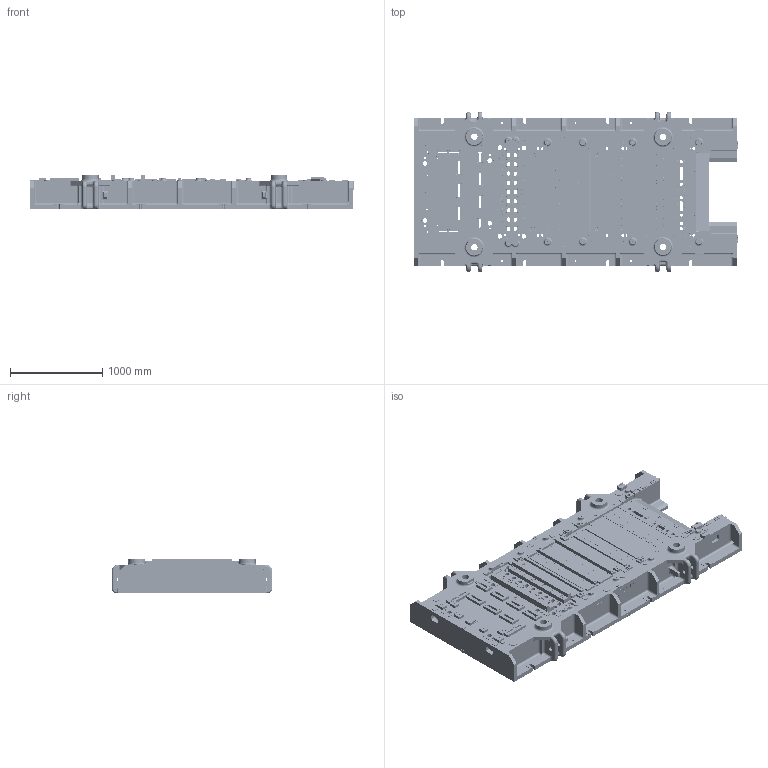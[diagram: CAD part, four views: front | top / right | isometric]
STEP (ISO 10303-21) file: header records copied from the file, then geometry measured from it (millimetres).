
FILE_DESCRIPTION(/* description */ (''),/* implementation_level */ '2;1');
FILE_NAME(/* name */ '01__Odlew_dolny.stp',/* time_stamp */ '2022-03-01T09:08:17+01:00',/* author */ (''),/* organization */ (''),/* preprocessor_version */ 'ST-DEVELOPER v16',/* originating_system */ 'SIEMENS PLM Software NX 10.0',/* authorisation */ '');
FILE_SCHEMA (('AUTOMOTIVE_DESIGN { 1 0 10303 214 3 1 1 1 }'));
Products named in the file (1): 01__Odlew_dolny
Bounding box: 3521 x 1740 x 378 mm (x, y, z)
Volume: 675508647 mm3; surface area: 31787841.8 mm2
Topology: 9 solids, 9 shells, 9984 faces, 30010 edges, 20199 vertices
Faces by surface type: plane 7958, cylinder 1299, cone 551, torus 88, sphere 78, bspline 10
Full cylindrical faces by diameter (mm): 4.917 x98, 6.647 x177, 6.8 x4, 8 x8, 8.376 x208, 10 x12, 10.106 x42, 12 x12, 15 x4, 17 x2, 20 x11, 26 x18, 30 x8, 34 x10, 34.5 x2, 35 x9, 42 x8, 46 x18, 50 x41, 52 x16, 60 x16, 70 x4, 80 x4, 84.853 x2, 86 x4, 90 x2, 180 x4
Entity records: 377961 total; most frequent: CARTESIAN_POINT 56828, ORIENTED_EDGE 52698, DIRECTION 51096, EDGE_CURVE 26349, LINE 23558, VECTOR 23558, VERTEX_POINT 18449, AXIS2_PLACEMENT_3D 13769
